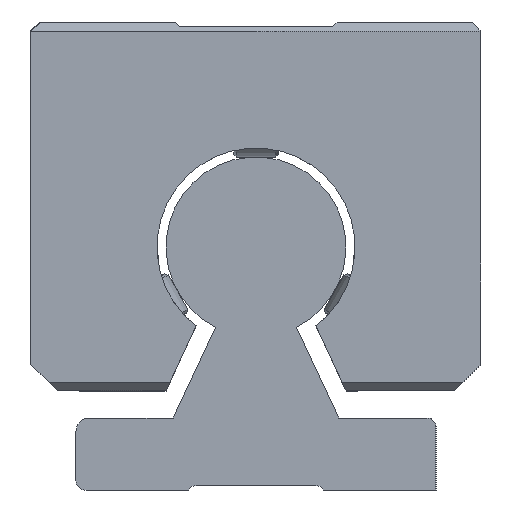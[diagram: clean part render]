
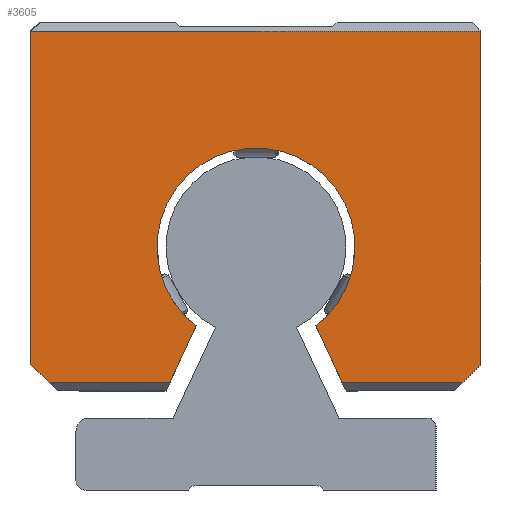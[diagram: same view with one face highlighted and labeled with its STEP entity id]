
A CAD part, left-side view. The second image highlights one B-rep face of the part: STEP entity #3605.
In plain terms, the highlighted planar face has unit normal (-1, 0, 0).
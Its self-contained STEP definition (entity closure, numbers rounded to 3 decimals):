
#3081=CARTESIAN_POINT('',(137.527,-25.,51.));
#3082=VERTEX_POINT('',#3081);
#3120=CARTESIAN_POINT('',(137.527,-25.,14.));
#3121=VERTEX_POINT('',#3120);
#3122=CARTESIAN_POINT('',(137.527,-25.,51.));
#3123=DIRECTION('',(0.0,0.0,-1.0));
#3124=VECTOR('',#3123,37.);
#3125=LINE('',#3122,#3124);
#3126=EDGE_CURVE('',#3082,#3121,#3125,.T.);
#3201=CARTESIAN_POINT('',(137.527,25.,51.));
#3202=VERTEX_POINT('',#3201);
#3209=CARTESIAN_POINT('',(137.527,25.,51.));
#3210=DIRECTION('',(0.0,-1.0,0.0));
#3211=VECTOR('',#3210,50.0);
#3212=LINE('',#3209,#3211);
#3213=EDGE_CURVE('',#3202,#3082,#3212,.T.);
#3223=CARTESIAN_POINT('',(137.527,23.,12.));
#3224=VERTEX_POINT('',#3223);
#3241=CARTESIAN_POINT('',(137.527,9.534,12.));
#3242=VERTEX_POINT('',#3241);
#3249=CARTESIAN_POINT('',(137.527,9.534,12.));
#3250=DIRECTION('',(0.0,1.0,0.0));
#3251=VECTOR('',#3250,13.466);
#3252=LINE('',#3249,#3251);
#3253=EDGE_CURVE('',#3242,#3224,#3252,.T.);
#3312=CARTESIAN_POINT('',(137.527,25.,14.));
#3313=VERTEX_POINT('',#3312);
#3314=CARTESIAN_POINT('',(137.527,23.,12.));
#3315=DIRECTION('',(0.0,0.707,0.707));
#3316=VECTOR('',#3315,2.828);
#3317=LINE('',#3314,#3316);
#3318=EDGE_CURVE('',#3224,#3313,#3317,.T.);
#3521=CARTESIAN_POINT('',(137.527,-23.,12.));
#3522=VERTEX_POINT('',#3521);
#3523=CARTESIAN_POINT('',(137.527,-25.,14.));
#3524=DIRECTION('',(0.0,0.707,-0.707));
#3525=VECTOR('',#3524,2.828);
#3526=LINE('',#3523,#3525);
#3527=EDGE_CURVE('',#3121,#3522,#3526,.T.);
#3545=CARTESIAN_POINT('',(137.527,-9.534,12.));
#3546=VERTEX_POINT('',#3545);
#3547=CARTESIAN_POINT('',(137.527,-23.,12.));
#3548=DIRECTION('',(0.0,1.0,0.0));
#3549=VECTOR('',#3548,13.466);
#3550=LINE('',#3547,#3549);
#3551=EDGE_CURVE('',#3522,#3546,#3550,.T.);
#3563=CARTESIAN_POINT('',(137.527,-17.,51.75));
#3564=DIRECTION('',(1.0,0.0,0.0));
#3565=DIRECTION('',(0.0,0.0,-1.0));
#3566=AXIS2_PLACEMENT_3D('',#3563,#3564,#3565);
#3567=PLANE('',#3566);
#3568=ORIENTED_EDGE('',*,*,#3253,.F.);
#3569=CARTESIAN_POINT('',(137.527,6.632,18.224));
#3570=VERTEX_POINT('',#3569);
#3571=CARTESIAN_POINT('',(137.527,6.632,18.224));
#3572=DIRECTION('',(0.0,0.423,-0.906));
#3573=VECTOR('',#3572,6.867);
#3574=LINE('',#3571,#3573);
#3575=EDGE_CURVE('',#3570,#3242,#3574,.T.);
#3576=ORIENTED_EDGE('',*,*,#3575,.F.);
#3577=CARTESIAN_POINT('',(137.527,-6.632,18.224));
#3578=VERTEX_POINT('',#3577);
#3579=CARTESIAN_POINT('',(137.527,0.,27.));
#3580=DIRECTION('',(-1.0,0.0,0.0));
#3581=DIRECTION('',(0.0,-1.0,0.0));
#3582=AXIS2_PLACEMENT_3D('',#3579,#3580,#3581);
#3583=CIRCLE('',#3582,11.0);
#3584=EDGE_CURVE('',#3578,#3570,#3583,.T.);
#3585=ORIENTED_EDGE('',*,*,#3584,.F.);
#3586=CARTESIAN_POINT('',(137.527,-9.534,12.));
#3587=DIRECTION('',(0.0,0.423,0.906));
#3588=VECTOR('',#3587,6.867);
#3589=LINE('',#3586,#3588);
#3590=EDGE_CURVE('',#3546,#3578,#3589,.T.);
#3591=ORIENTED_EDGE('',*,*,#3590,.F.);
#3592=ORIENTED_EDGE('',*,*,#3551,.F.);
#3593=ORIENTED_EDGE('',*,*,#3527,.F.);
#3594=ORIENTED_EDGE('',*,*,#3126,.F.);
#3595=ORIENTED_EDGE('',*,*,#3213,.F.);
#3596=CARTESIAN_POINT('',(137.527,25.,14.));
#3597=DIRECTION('',(0.0,0.0,1.0));
#3598=VECTOR('',#3597,37.);
#3599=LINE('',#3596,#3598);
#3600=EDGE_CURVE('',#3313,#3202,#3599,.T.);
#3601=ORIENTED_EDGE('',*,*,#3600,.F.);
#3602=ORIENTED_EDGE('',*,*,#3318,.F.);
#3603=EDGE_LOOP('',(#3568,#3576,#3585,#3591,#3592,#3593,#3594,#3595,#3601,#3602));
#3604=FACE_OUTER_BOUND('',#3603,.T.);
#3605=ADVANCED_FACE('',(#3604),#3567,.F.);
